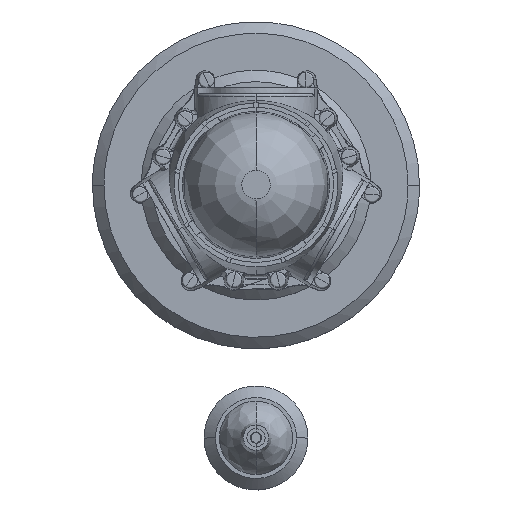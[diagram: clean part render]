
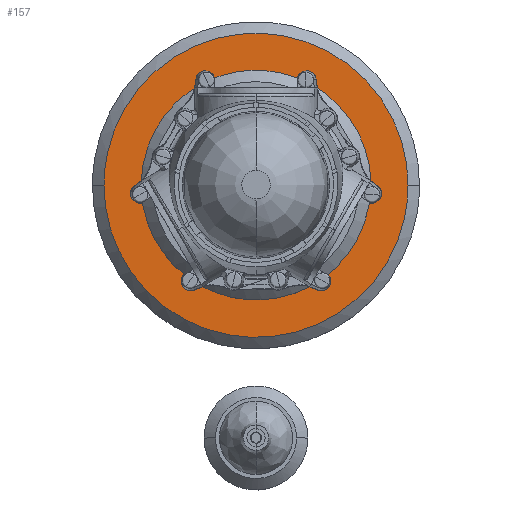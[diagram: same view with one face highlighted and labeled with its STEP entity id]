
A CAD part, top view. The second image highlights one B-rep face of the part: STEP entity #157.
In plain terms, the highlighted planar face has unit normal (0, 0, 1).
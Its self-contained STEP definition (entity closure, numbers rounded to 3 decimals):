
#157=ADVANCED_FACE('',(#1036),#12882,.T.);
#1036=FACE_OUTER_BOUND('',#1915,.T.);
#1915=EDGE_LOOP('',(#2926,#2927));
#2926=ORIENTED_EDGE('',*,*,#7062,.T.);
#2927=ORIENTED_EDGE('',*,*,#7069,.T.);
#7062=EDGE_CURVE('',#11233,#11237,#9935,.T.);
#7069=EDGE_CURVE('',#11237,#11233,#9940,.T.);
#9935=(
BOUNDED_CURVE()
B_SPLINE_CURVE(2,(#15122,#15123,#15124,#15125,#15126),.UNSPECIFIED.,.F.,
 .F.)
B_SPLINE_CURVE_WITH_KNOTS((3,2,3),(0.,8.316,16.632),
 .UNSPECIFIED.)
CURVE()
GEOMETRIC_REPRESENTATION_ITEM()
RATIONAL_B_SPLINE_CURVE((1.,0.707,1.,0.707,1.))
REPRESENTATION_ITEM('')
);
#9940=(
BOUNDED_CURVE()
B_SPLINE_CURVE(2,(#15148,#15149,#15150,#15151,#15152),.UNSPECIFIED.,.F.,
 .F.)
B_SPLINE_CURVE_WITH_KNOTS((3,2,3),(16.632,24.948,33.264),
 .UNSPECIFIED.)
CURVE()
GEOMETRIC_REPRESENTATION_ITEM()
RATIONAL_B_SPLINE_CURVE((1.,0.707,1.,0.707,1.))
REPRESENTATION_ITEM('')
);
#11233=VERTEX_POINT('',#15096);
#11237=VERTEX_POINT('',#15100);
#12882=PLANE('',#13497);
#13497=AXIS2_PLACEMENT_3D('',#15051,#14015,$);
#14015=DIRECTION('',(0.,0.,1.));
#15051=CARTESIAN_POINT('',(7.118,7.118,2.));
#15096=CARTESIAN_POINT('',(-5.294,0.,2.));
#15100=CARTESIAN_POINT('',(5.294,0.,2.));
#15122=CARTESIAN_POINT('',(-5.294,0.,2.));
#15123=CARTESIAN_POINT('',(-5.294,-5.294,2.));
#15124=CARTESIAN_POINT('',(0.,-5.294,2.));
#15125=CARTESIAN_POINT('',(5.294,-5.294,2.));
#15126=CARTESIAN_POINT('',(5.294,0.,2.));
#15148=CARTESIAN_POINT('',(5.294,0.,2.));
#15149=CARTESIAN_POINT('',(5.294,5.294,2.));
#15150=CARTESIAN_POINT('',(0.,5.294,2.));
#15151=CARTESIAN_POINT('',(-5.294,5.294,2.));
#15152=CARTESIAN_POINT('',(-5.294,0.,2.));
